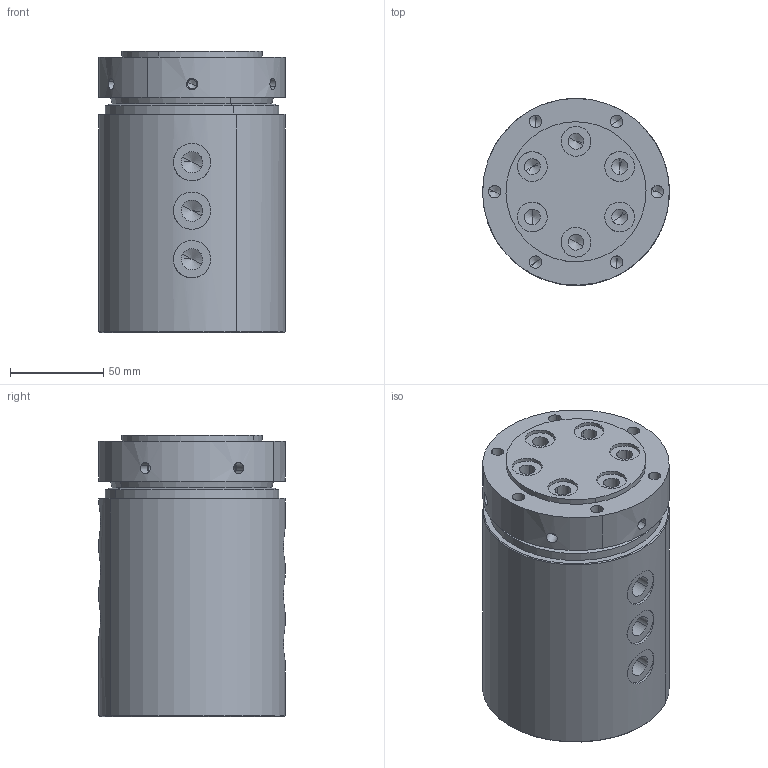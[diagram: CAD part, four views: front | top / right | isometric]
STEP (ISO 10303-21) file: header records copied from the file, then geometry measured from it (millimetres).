
FILE_DESCRIPTION(('CATIA V5 STEP Exchange'),'2;1');
FILE_NAME('\\kjf-102\KJF_TC\Hydraulic_Clamp\Standard\ROTARY\RTC-6060\RTC-6060_-_.stp','2025-06-27T06:28:09+00:00',('none'),('none'),'CATIA Version 5 Release 19 SP 9 (IN-10)','CATIA V5 STEP AP214','none');
FILE_SCHEMA(('AUTOMOTIVE_DESIGN { 1 0 10303 214 1 1 1 1 }'));
Length unit declared in the file: millimetre
Products named in the file (9): RTC-6060_-_; RTC-6060_S_HOUSING; RTC-6060_S_ROTE; VR-90A_OIL SEAL; RTC-5050_-_COVER; BEARING_6809; BEARING_6807; COVER_M30; SCREW M5x12 CSK
Assembly tree (8 placements, depth 2):
  RTC-6060_-_
    RTC-6060_S_HOUSING
    RTC-6060_S_ROTE
    VR-90A_OIL SEAL
    RTC-5050_-_COVER
    BEARING_6809
    BEARING_6807
    COVER_M30
    SCREW M5x12 CSK
Bounding box: 99.97 x 100 x 150.5 mm (x, y, z)
Volume: 1151297.1 mm3; surface area: 150021.6 mm2
Topology: 8 solids, 8 shells, 383 faces, 842 edges, 479 vertices
Faces by surface type: cylinder 184, cone 116, plane 65, torus 18
Entity records: 10737 total; most frequent: CARTESIAN_POINT 2803, ORIENTED_EDGE 1552, DIRECTION 1429, EDGE_CURVE 776, AXIS2_PLACEMENT_3D 719, VERTEX_POINT 479, EDGE_LOOP 465, ADVANCED_FACE 383
